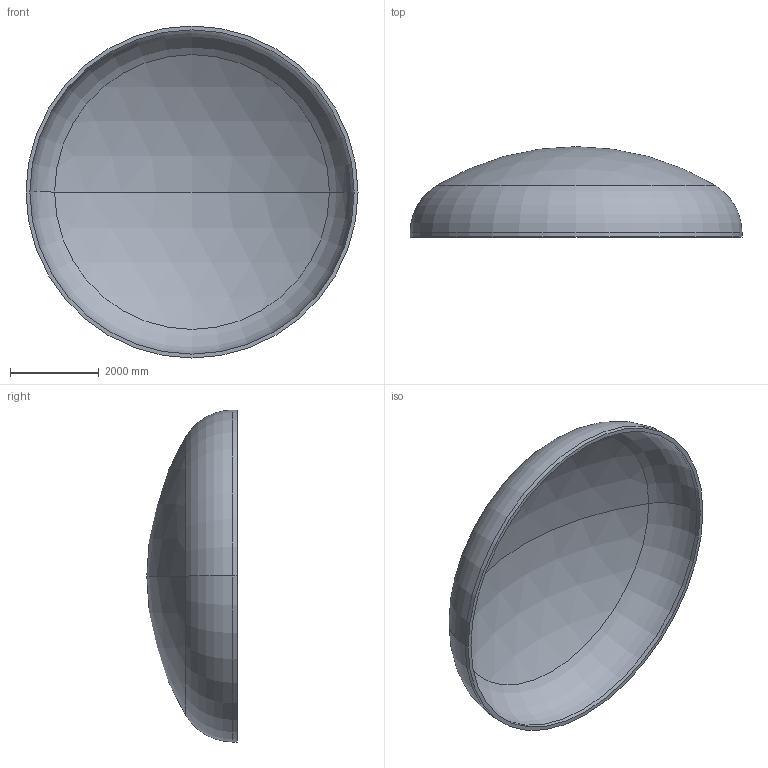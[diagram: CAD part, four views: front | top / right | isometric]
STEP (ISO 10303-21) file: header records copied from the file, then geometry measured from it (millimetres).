
FILE_DESCRIPTION (( 'STEP AP203' ), '1' );
FILE_NAME ('DIN 28013 Korbbogenform_-_Boden DIN 28013 - 7500 x 100 - I - s=88.step', '2016-07-04T10:56:24', ( '' ), ( '' ), 'SwSTEP 2.0', 'SolidWorks 2013', '' );
FILE_SCHEMA (( 'CONFIG_CONTROL_DESIGN' ));
Length unit declared in the file: millimetre
Products named in the file (1): DIN 28013 Korbbogenform_-_Boden DIN 28013 - 7500 x 100 - I - s=88
Bounding box: 7500 x 2042.04 x 7500 mm (x, y, z)
Volume: 5506458141.1 mm3; surface area: 127212069.3 mm2
Topology: 1 solids, 1 shells, 13 faces, 24 edges, 14 vertices
Faces by surface type: torus 4, cylinder 4, sphere 4, plane 1
Entity records: 407 total; most frequent: DIRECTION 72, CARTESIAN_POINT 52, ORIENTED_EDGE 48, AXIS2_PLACEMENT_3D 34, EDGE_CURVE 24, CIRCLE 20, VERTEX_POINT 14, EDGE_LOOP 14
